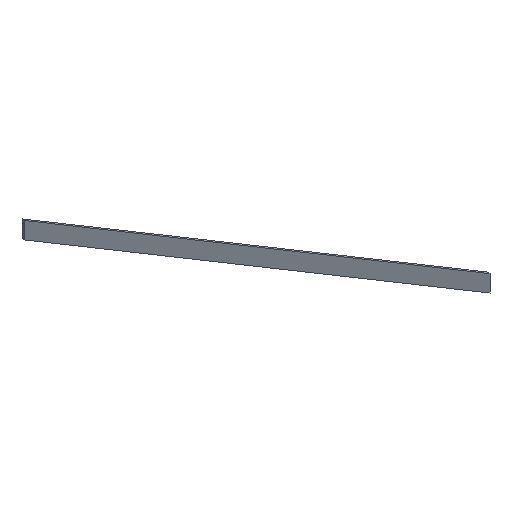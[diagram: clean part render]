
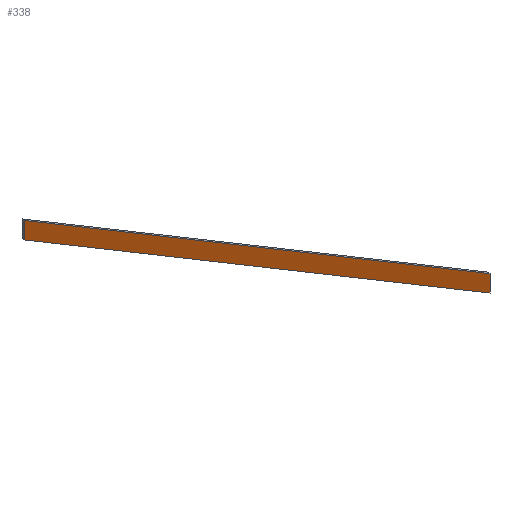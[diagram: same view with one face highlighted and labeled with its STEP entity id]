
A CAD part, isometric view. The second image highlights one B-rep face of the part: STEP entity #338.
In plain terms, the highlighted planar face has unit normal (-0.084, -0.997, 0).
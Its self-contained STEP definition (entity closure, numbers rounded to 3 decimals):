
#24 = VERTEX_POINT('',#25);
#25 = CARTESIAN_POINT('',(-380.167,251.007,278.));
#32 = PLANE('',#33);
#33 = AXIS2_PLACEMENT_3D('',#34,#35,#36);
#34 = CARTESIAN_POINT('',(-380.,253.,278.));
#35 = DIRECTION('',(0.489,-0.041,0.871));
#36 = DIRECTION('',(0.868,-0.073,-0.491)
  );
#44 = PLANE('',#45);
#45 = AXIS2_PLACEMENT_3D('',#46,#47,#48);
#46 = CARTESIAN_POINT('',(-380.,253.,292.));
#47 = DIRECTION('',(0.996,-0.084,0.));
#48 = DIRECTION('',(0.,0.,-1.));
#56 = EDGE_CURVE('',#24,#57,#59,.T.);
#57 = VERTEX_POINT('',#58);
#58 = CARTESIAN_POINT('',(-22.667,221.007,76.));
#59 = SURFACE_CURVE('',#60,(#64,#71),.PCURVE_S1.);
#60 = LINE('',#61,#62);
#61 = CARTESIAN_POINT('',(-380.167,251.007,278.));
#62 = VECTOR('',#63,1.);
#63 = DIRECTION('',(0.868,-0.073,-0.491)
  );
#64 = PCURVE('',#32,#65);
#65 = DEFINITIONAL_REPRESENTATION('',(#66),#70);
#66 = LINE('',#67,#68);
#67 = CARTESIAN_POINT('',(0.,-2.));
#68 = VECTOR('',#69,1.);
#69 = DIRECTION('',(1.,0.));
#70 = ( GEOMETRIC_REPRESENTATION_CONTEXT(2) 
PARAMETRIC_REPRESENTATION_CONTEXT() REPRESENTATION_CONTEXT('2D SPACE',''
  ) );
#71 = PCURVE('',#72,#77);
#72 = PLANE('',#73);
#73 = AXIS2_PLACEMENT_3D('',#74,#75,#76);
#74 = CARTESIAN_POINT('',(-201.417,236.007,184.));
#75 = DIRECTION('',(-0.084,-0.996,
    0.));
#76 = DIRECTION('',(-0.996,0.084,
    0.));
#77 = DEFINITIONAL_REPRESENTATION('',(#78),#82);
#78 = LINE('',#79,#80);
#79 = CARTESIAN_POINT('',(179.378,-94.));
#80 = VECTOR('',#81,1.);
#81 = DIRECTION('',(-0.871,0.491));
#82 = ( GEOMETRIC_REPRESENTATION_CONTEXT(2) 
PARAMETRIC_REPRESENTATION_CONTEXT() REPRESENTATION_CONTEXT('2D SPACE',''
  ) );
#100 = PLANE('',#101);
#101 = AXIS2_PLACEMENT_3D('',#102,#103,#104);
#102 = CARTESIAN_POINT('',(-22.5,223.,76.));
#103 = DIRECTION('',(-0.996,0.084,0.));
#104 = DIRECTION('',(0.,0.,1.));
#142 = EDGE_CURVE('',#57,#143,#145,.T.);
#143 = VERTEX_POINT('',#144);
#144 = CARTESIAN_POINT('',(-22.667,221.007,90.));
#145 = SURFACE_CURVE('',#146,(#150,#157),.PCURVE_S1.);
#146 = LINE('',#147,#148);
#147 = CARTESIAN_POINT('',(-22.667,221.007,76.));
#148 = VECTOR('',#149,1.);
#149 = DIRECTION('',(0.,0.,1.));
#150 = PCURVE('',#100,#151);
#151 = DEFINITIONAL_REPRESENTATION('',(#152),#156);
#152 = LINE('',#153,#154);
#153 = CARTESIAN_POINT('',(0.,-2.));
#154 = VECTOR('',#155,1.);
#155 = DIRECTION('',(1.,0.));
#156 = ( GEOMETRIC_REPRESENTATION_CONTEXT(2) 
PARAMETRIC_REPRESENTATION_CONTEXT() REPRESENTATION_CONTEXT('2D SPACE',''
  ) );
#157 = PCURVE('',#72,#158);
#158 = DEFINITIONAL_REPRESENTATION('',(#159),#163);
#159 = LINE('',#160,#161);
#160 = CARTESIAN_POINT('',(-179.378,108.));
#161 = VECTOR('',#162,1.);
#162 = DIRECTION('',(0.,-1.));
#163 = ( GEOMETRIC_REPRESENTATION_CONTEXT(2) 
PARAMETRIC_REPRESENTATION_CONTEXT() REPRESENTATION_CONTEXT('2D SPACE',''
  ) );
#181 = PLANE('',#182);
#182 = AXIS2_PLACEMENT_3D('',#183,#184,#185);
#183 = CARTESIAN_POINT('',(-22.5,223.,90.));
#184 = DIRECTION('',(-0.489,0.041,-0.871)
  );
#185 = DIRECTION('',(-0.868,0.073,0.491)
  );
#218 = EDGE_CURVE('',#143,#219,#221,.T.);
#219 = VERTEX_POINT('',#220);
#220 = CARTESIAN_POINT('',(-380.167,251.007,292.));
#221 = SURFACE_CURVE('',#222,(#226,#233),.PCURVE_S1.);
#222 = LINE('',#223,#224);
#223 = CARTESIAN_POINT('',(-22.667,221.007,90.));
#224 = VECTOR('',#225,1.);
#225 = DIRECTION('',(-0.868,0.073,0.491)
  );
#226 = PCURVE('',#181,#227);
#227 = DEFINITIONAL_REPRESENTATION('',(#228),#232);
#228 = LINE('',#229,#230);
#229 = CARTESIAN_POINT('',(0.,-2.));
#230 = VECTOR('',#231,1.);
#231 = DIRECTION('',(1.,0.));
#232 = ( GEOMETRIC_REPRESENTATION_CONTEXT(2) 
PARAMETRIC_REPRESENTATION_CONTEXT() REPRESENTATION_CONTEXT('2D SPACE',''
  ) );
#233 = PCURVE('',#72,#234);
#234 = DEFINITIONAL_REPRESENTATION('',(#235),#239);
#235 = LINE('',#236,#237);
#236 = CARTESIAN_POINT('',(-179.378,94.));
#237 = VECTOR('',#238,1.);
#238 = DIRECTION('',(0.871,-0.491));
#239 = ( GEOMETRIC_REPRESENTATION_CONTEXT(2) 
PARAMETRIC_REPRESENTATION_CONTEXT() REPRESENTATION_CONTEXT('2D SPACE',''
  ) );
#289 = EDGE_CURVE('',#219,#24,#290,.T.);
#290 = SURFACE_CURVE('',#291,(#295,#302),.PCURVE_S1.);
#291 = LINE('',#292,#293);
#292 = CARTESIAN_POINT('',(-380.167,251.007,292.));
#293 = VECTOR('',#294,1.);
#294 = DIRECTION('',(0.,0.,-1.));
#295 = PCURVE('',#44,#296);
#296 = DEFINITIONAL_REPRESENTATION('',(#297),#301);
#297 = LINE('',#298,#299);
#298 = CARTESIAN_POINT('',(-0.,-2.));
#299 = VECTOR('',#300,1.);
#300 = DIRECTION('',(1.,0.));
#301 = ( GEOMETRIC_REPRESENTATION_CONTEXT(2) 
PARAMETRIC_REPRESENTATION_CONTEXT() REPRESENTATION_CONTEXT('2D SPACE',''
  ) );
#302 = PCURVE('',#72,#303);
#303 = DEFINITIONAL_REPRESENTATION('',(#304),#308);
#304 = LINE('',#305,#306);
#305 = CARTESIAN_POINT('',(179.378,-108.));
#306 = VECTOR('',#307,1.);
#307 = DIRECTION('',(0.,1.));
#308 = ( GEOMETRIC_REPRESENTATION_CONTEXT(2) 
PARAMETRIC_REPRESENTATION_CONTEXT() REPRESENTATION_CONTEXT('2D SPACE',''
  ) );
#338 = ADVANCED_FACE('',(#339),#72,.T.);
#339 = FACE_BOUND('',#340,.T.);
#340 = EDGE_LOOP('',(#341,#342,#343,#344));
#341 = ORIENTED_EDGE('',*,*,#56,.T.);
#342 = ORIENTED_EDGE('',*,*,#142,.T.);
#343 = ORIENTED_EDGE('',*,*,#218,.T.);
#344 = ORIENTED_EDGE('',*,*,#289,.T.);
